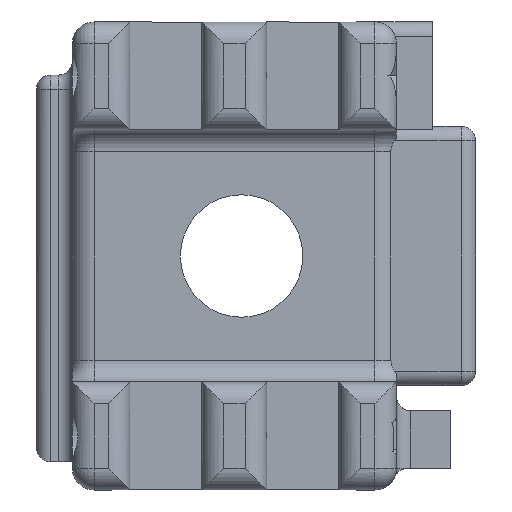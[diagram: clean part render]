
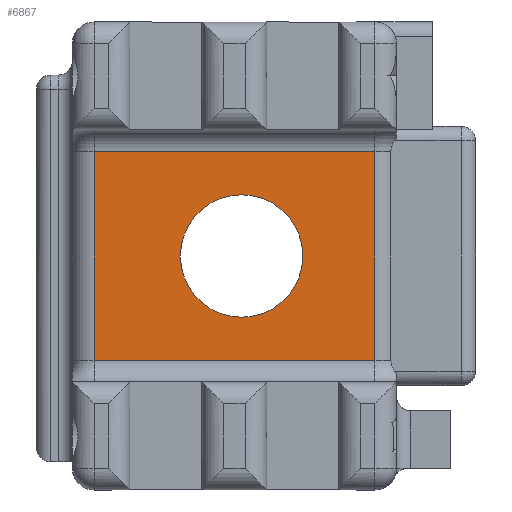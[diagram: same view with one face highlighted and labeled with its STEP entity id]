
A CAD part, left-side view. The second image highlights one B-rep face of the part: STEP entity #6867.
In plain terms, the highlighted planar face has unit normal (-1, 0, 0).
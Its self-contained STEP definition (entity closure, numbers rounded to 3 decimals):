
#51 = EDGE_LOOP ( 'NONE', ( #6401, #7315, #292, #1378 ) ) ;
#154 = EDGE_CURVE ( 'NONE', #2001, #6378, #4418, .T. ) ;
#292 = ORIENTED_EDGE ( 'NONE', *, *, #6840, .T. ) ;
#305 = DIRECTION ( 'NONE',  ( 0., 0., -1. ) ) ;
#425 = DIRECTION ( 'NONE',  ( 0., 1., 0. ) ) ;
#900 = CARTESIAN_POINT ( 'NONE',  ( -26.797, 21.5, -18.773 ) ) ;
#913 = CARTESIAN_POINT ( 'NONE',  ( -26.797, 42., -4.273 ) ) ;
#1378 = ORIENTED_EDGE ( 'NONE', *, *, #9806, .T. ) ;
#1446 = CARTESIAN_POINT ( 'NONE',  ( -26.797, 3., -4.273 ) ) ;
#1628 = CARTESIAN_POINT ( 'NONE',  ( -26.797, 3., -1.273 ) ) ;
#1735 = CIRCLE ( 'NONE', #9348, 8.5 ) ;
#1773 = VERTEX_POINT ( 'NONE', #5588 ) ;
#1926 = CARTESIAN_POINT ( 'NONE',  ( -26.797, 3., -33.273 ) ) ;
#2001 = VERTEX_POINT ( 'NONE', #3423 ) ;
#2026 = DIRECTION ( 'NONE',  ( 1., 0., 0. ) ) ;
#2080 = AXIS2_PLACEMENT_3D ( 'NONE', #8890, #2026, #305 ) ;
#2511 = ORIENTED_EDGE ( 'NONE', *, *, #154, .T. ) ;
#2606 = AXIS2_PLACEMENT_3D ( 'NONE', #10844, #9936, #4816 ) ;
#2895 = CARTESIAN_POINT ( 'NONE',  ( -26.797, 42., -36.273 ) ) ;
#3124 = FACE_BOUND ( 'NONE', #8914, .T. ) ;
#3189 = CARTESIAN_POINT ( 'NONE',  ( -26.797, 3., -33.273 ) ) ;
#3423 = CARTESIAN_POINT ( 'NONE',  ( -26.797, 21.5, -10.273 ) ) ;
#3846 = VERTEX_POINT ( 'NONE', #1926 ) ;
#4120 = EDGE_CURVE ( 'NONE', #3846, #9054, #8549, .T. ) ;
#4418 = CIRCLE ( 'NONE', #2080, 8.5 ) ;
#4660 = VERTEX_POINT ( 'NONE', #913 ) ;
#4816 = DIRECTION ( 'NONE',  ( 0., 0., -1. ) ) ;
#5588 = CARTESIAN_POINT ( 'NONE',  ( -26.797, 42., -33.273 ) ) ;
#5612 = FACE_OUTER_BOUND ( 'NONE', #51, .T. ) ;
#5924 = ORIENTED_EDGE ( 'NONE', *, *, #8321, .T. ) ;
#6378 = VERTEX_POINT ( 'NONE', #7053 ) ;
#6401 = ORIENTED_EDGE ( 'NONE', *, *, #4120, .T. ) ;
#6840 = EDGE_CURVE ( 'NONE', #4660, #1773, #10668, .T. ) ;
#6867 = ADVANCED_FACE ( 'NONE', ( #3124, #5612 ), #10718, .F. ) ;
#7053 = CARTESIAN_POINT ( 'NONE',  ( -26.797, 21.5, -27.273 ) ) ;
#7315 = ORIENTED_EDGE ( 'NONE', *, *, #10242, .T. ) ;
#7949 = DIRECTION ( 'NONE',  ( 1., 0., 0. ) ) ;
#8165 = LINE ( 'NONE', #8217, #10622 ) ;
#8217 = CARTESIAN_POINT ( 'NONE',  ( -26.797, 42., -4.273 ) ) ;
#8321 = EDGE_CURVE ( 'NONE', #6378, #2001, #1735, .T. ) ;
#8549 = LINE ( 'NONE', #1628, #9181 ) ;
#8635 = DIRECTION ( 'NONE',  ( 0., 0., -1. ) ) ;
#8890 = CARTESIAN_POINT ( 'NONE',  ( -26.797, 21.5, -18.773 ) ) ;
#8914 = EDGE_LOOP ( 'NONE', ( #5924, #2511 ) ) ;
#9054 = VERTEX_POINT ( 'NONE', #1446 ) ;
#9084 = DIRECTION ( 'NONE',  ( 0., -1., 0. ) ) ;
#9181 = VECTOR ( 'NONE', #11004, 1000. ) ;
#9348 = AXIS2_PLACEMENT_3D ( 'NONE', #900, #7949, #8635 ) ;
#9806 = EDGE_CURVE ( 'NONE', #1773, #3846, #10053, .T. ) ;
#9822 = DIRECTION ( 'NONE',  ( 0., 0., -1. ) ) ;
#9936 = DIRECTION ( 'NONE',  ( 1., 0., 0. ) ) ;
#10053 = LINE ( 'NONE', #3189, #10581 ) ;
#10234 = VECTOR ( 'NONE', #9822, 1000. ) ;
#10242 = EDGE_CURVE ( 'NONE', #9054, #4660, #8165, .T. ) ;
#10581 = VECTOR ( 'NONE', #9084, 1000. ) ;
#10622 = VECTOR ( 'NONE', #425, 1000. ) ;
#10668 = LINE ( 'NONE', #2895, #10234 ) ;
#10718 = PLANE ( 'NONE',  #2606 ) ;
#10844 = CARTESIAN_POINT ( 'NONE',  ( -26.797, 45., -36.273 ) ) ;
#11004 = DIRECTION ( 'NONE',  ( 0., 0., 1. ) ) ;
